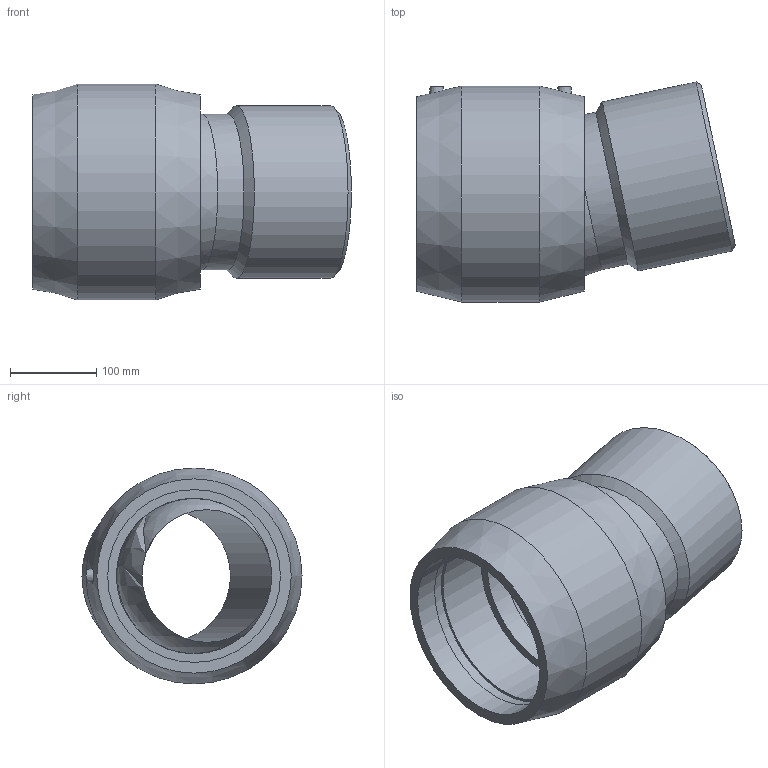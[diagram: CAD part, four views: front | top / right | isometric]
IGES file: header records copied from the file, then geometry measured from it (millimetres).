
Global section: file name: 4947D4200.ipt; native system: Autodesk Inventor 2015; preprocessor: unknown; author: KIM; date: 20190124.130511; units: millimetre
Bounding box: 368.96 x 254.71 x 250 mm (x, y, z)
Volume: 5664100.9 mm3; surface area: 523447.5 mm2
Topology: 1 solids, 1 shells, 32 faces, 70 edges, 47 vertices
Faces by surface type: plane 11, revolution 7, cone 6, cylinder 6, sphere 2
Full cylindrical faces by diameter (mm): 4 x2, 180 x1, 200 x1, 250 x1
